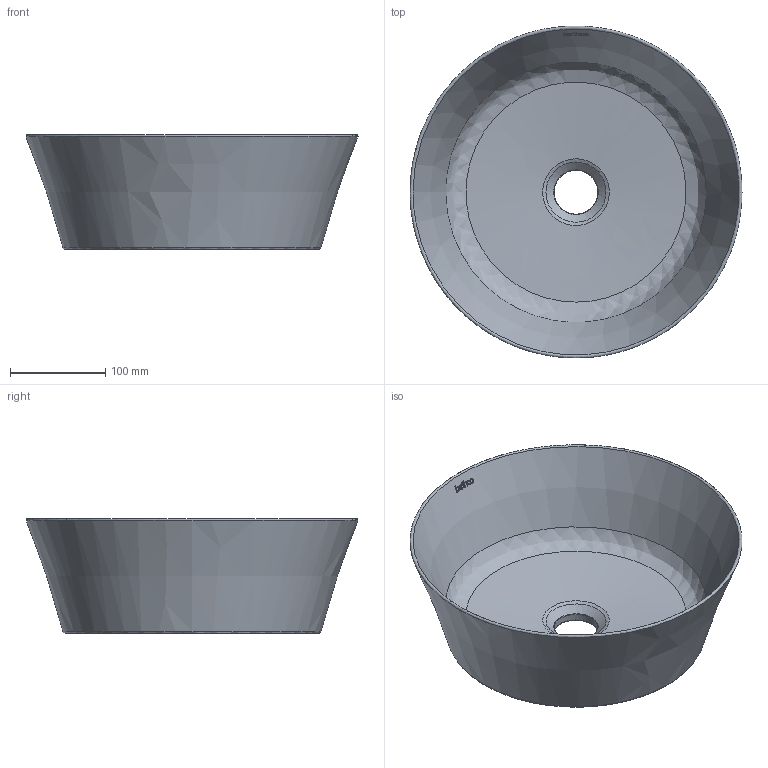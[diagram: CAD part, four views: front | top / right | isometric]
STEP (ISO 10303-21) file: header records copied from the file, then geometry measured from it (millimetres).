
FILE_DESCRIPTION(/* description */ (''),/* implementation_level */ '2;1');
FILE_NAME(/* name */ '4086_VOLTA 35 ',/* time_stamp */ '2022-12-14T13:54:30+01:00',/* author */ (''),/* organization */ (''),/* preprocessor_version */ 'ST-DEVELOPER v16.5',/* originating_system */ '',/* authorisation */ '');
FILE_SCHEMA (('CONFIG_CONTROL_DESIGN'));
Length unit declared in the file: millimetre
Products named in the file (1): Document
Bounding box: 348.36 x 348.35 x 120 mm (x, y, z)
Volume: 1371862.8 mm3; surface area: 336237.3 mm2
Topology: 7 solids, 7 shells, 107 faces, 265 edges, 170 vertices
Faces by surface type: bspline 104, plane 2, cylinder 1
Full cylindrical faces by diameter (mm): 46 x1
Entity records: 6107 total; most frequent: CARTESIAN_POINT 4428, ORIENTED_EDGE 530, EDGE_CURVE 265, B_SPLINE_CURVE_WITH_KNOTS 203, VERTEX_POINT 170, EDGE_LOOP 113, ADVANCED_FACE 107, FACE_OUTER_BOUND 107
